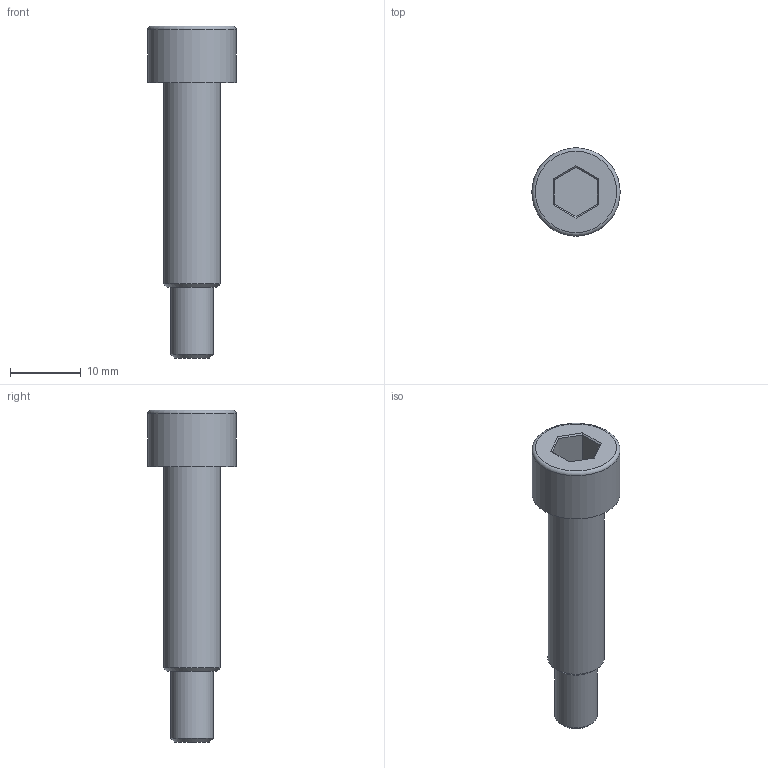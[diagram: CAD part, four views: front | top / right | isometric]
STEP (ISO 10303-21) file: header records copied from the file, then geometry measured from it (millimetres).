
FILE_DESCRIPTION( ( 'Unknown' ), '1' );
FILE_NAME( 'F:/navkite transat/construction/2016/3D ET ASSEMBLAGES/desal/DES 33.stp', 'Unknown', ( 'GMA' ), ( 'Unknown' ), 'XStep 1.0', 'Unknown', ' ' );
FILE_SCHEMA( ( 'automotive_design' ) );
Length unit declared in the file: millimetre
Products named in the file (1): 1
Bounding box: 12.5 x 12.5 x 47 mm (x, y, z)
Volume: 2558.6 mm3; surface area: 1556.4 mm2
Topology: 1 solids, 1 shells, 23 faces, 46 edges, 28 vertices
Faces by surface type: plane 17, cylinder 3, cone 2, torus 1
Full cylindrical faces by diameter (mm): 6 x1, 8 x1, 12.5 x1
Entity records: 746 total; most frequent: DIRECTION 96, CARTESIAN_POINT 90, ORIENTED_EDGE 78, EDGE_CURVE 39, AXIS2_PLACEMENT_3D 33, EDGE_LOOP 32, LINE 30, VECTOR 30
